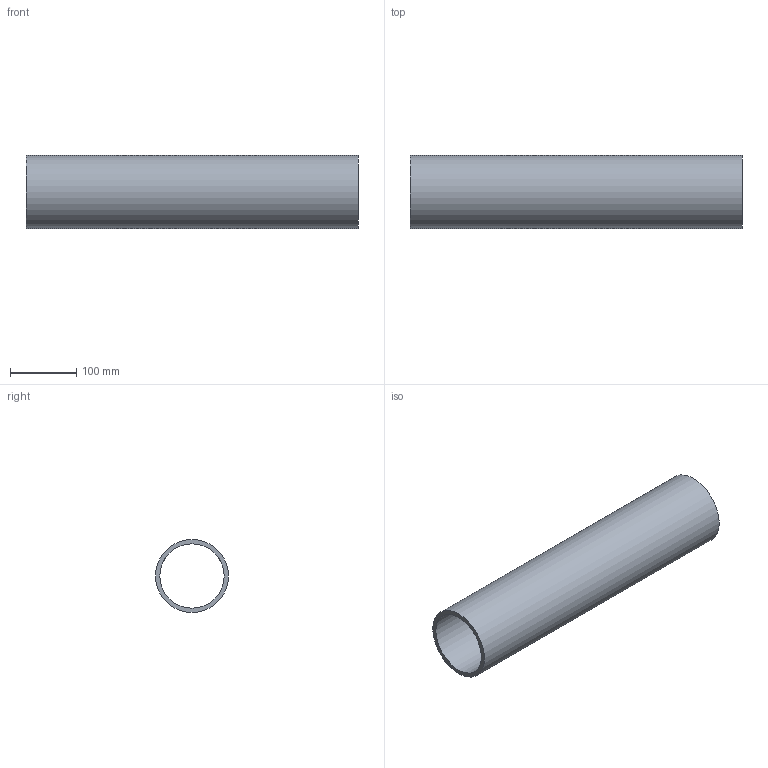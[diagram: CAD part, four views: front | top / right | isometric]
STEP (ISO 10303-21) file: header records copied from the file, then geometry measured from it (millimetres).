
FILE_DESCRIPTION(('Open CASCADE Model'),'2;1');
FILE_NAME('Open CASCADE Shape Model','2026-11-23T20:25:50',('Author'),( 'Open CASCADE'),'Open CASCADE STEP processor 7.9','Open CASCADE 7.9' ,'Unknown');
FILE_SCHEMA(('AUTOMOTIVE_DESIGN { 1 0 10303 214 1 1 1 1 }'));
Length unit declared in the file: millimetre
Products named in the file (1): Open CASCADE STEP translator 7.9 4
Bounding box: 500 x 110 x 110 mm (x, y, z)
Volume: 1071933.5 mm3; surface area: 329158.6 mm2
Topology: 1 solids, 1 shells, 10 faces, 15 edges, 10 vertices
Faces by surface type: cylinder 5, plane 5
Full cylindrical faces by diameter (mm): 5 x3, 96.8 x1, 110 x1
Entity records: 867 total; most frequent: CARTESIAN_POINT 516, DIRECTION 65, ORIENTED_EDGE 30, PCURVE 30, DEFINITIONAL_REPRESENTATION 30, LINE 22, VECTOR 22, AXIS2_PLACEMENT_3D 18
